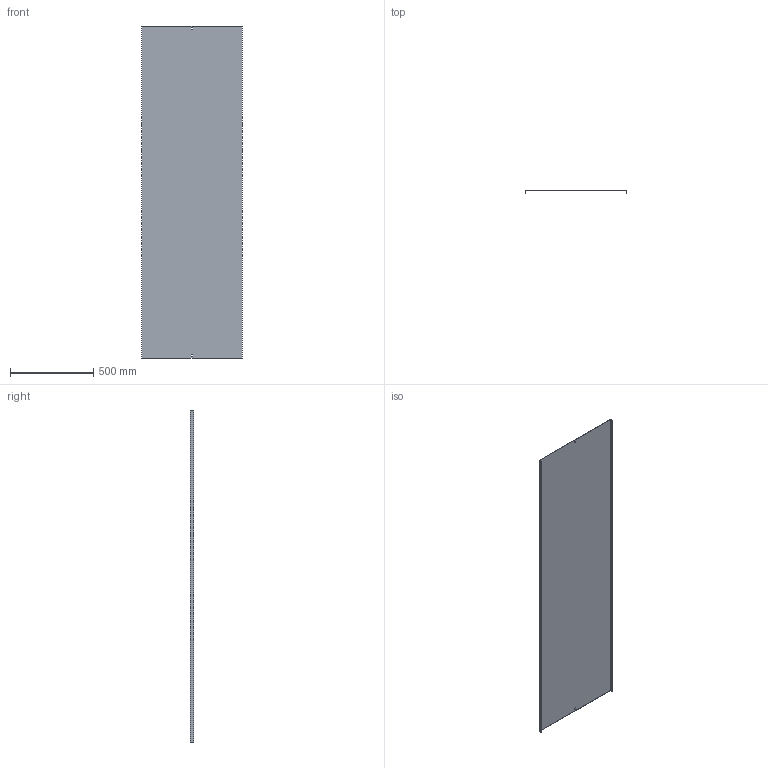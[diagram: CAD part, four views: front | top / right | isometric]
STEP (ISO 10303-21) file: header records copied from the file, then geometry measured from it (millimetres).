
FILE_DESCRIPTION (( 'STEP AP214' ), '1' );
FILE_NAME ('05G2R600.step', '2025-02-21T13:07:34', ( '' ), ( '' ), 'SwSTEP 2.0', 'SolidWorks 2023', '' );
FILE_SCHEMA (( 'AUTOMOTIVE_DESIGN' ));
Length unit declared in the file: millimetre
Products named in the file (1): 05G2R600
Bounding box: 607 x 20 x 2000 mm (x, y, z)
Volume: 1931824.5 mm3; surface area: 2583791 mm2
Topology: 1 solids, 1 shells, 18 faces, 48 edges, 32 vertices
Faces by surface type: plane 18
Entity records: 583 total; most frequent: CARTESIAN_POINT 99, ORIENTED_EDGE 96, DIRECTION 86, LINE 48, VECTOR 48, EDGE_CURVE 48, VERTEX_POINT 32, EDGE_LOOP 22
